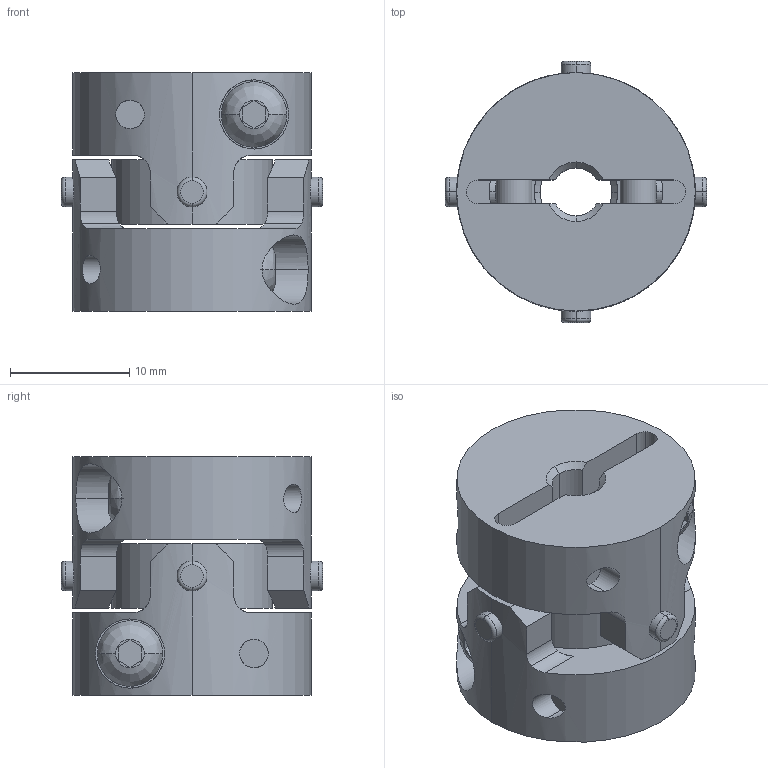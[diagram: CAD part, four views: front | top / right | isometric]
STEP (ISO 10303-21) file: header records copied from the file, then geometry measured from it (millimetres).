
FILE_DESCRIPTION((''),'2;1');
FILE_NAME('UA-20C-4×6.stp','2013-05-16T09:01:35',(''),(''),'AutoCAD STEP 2000i','AutoCAD 2000i',', , ');
FILE_SCHEMA(('CONFIG_CONTROL_DESIGN'));
Length unit declared in the file: millimetre
Products named in the file (6): UA-20C-4×4; 忣兜1; UA-2002-D04-1; BTN-M3; UA-2002-D04; UA20-SEN
Assembly tree (6 placements, depth 3):
  UA-20C-4×4
    忣兜1
    UA-2002-D04-1
      BTN-M3
    UA-2002-D04
      BTN-M3
    UA20-SEN
Bounding box: 21.89 x 21.89 x 20 mm (x, y, z)
Volume: 4525.8 mm3; surface area: 3870 mm2
Topology: 1 solids, 1 shells, 206 faces, 554 edges, 364 vertices
Faces by surface type: cylinder 96, plane 78, cone 16, bspline 8, torus 8
Entity records: 8011 total; most frequent: CARTESIAN_POINT 2695, ORIENTED_EDGE 1108, DIRECTION 1064, EDGE_CURVE 554, AXIS2_PLACEMENT_3D 409, VERTEX_POINT 364, VECTOR 246, LINE 246
